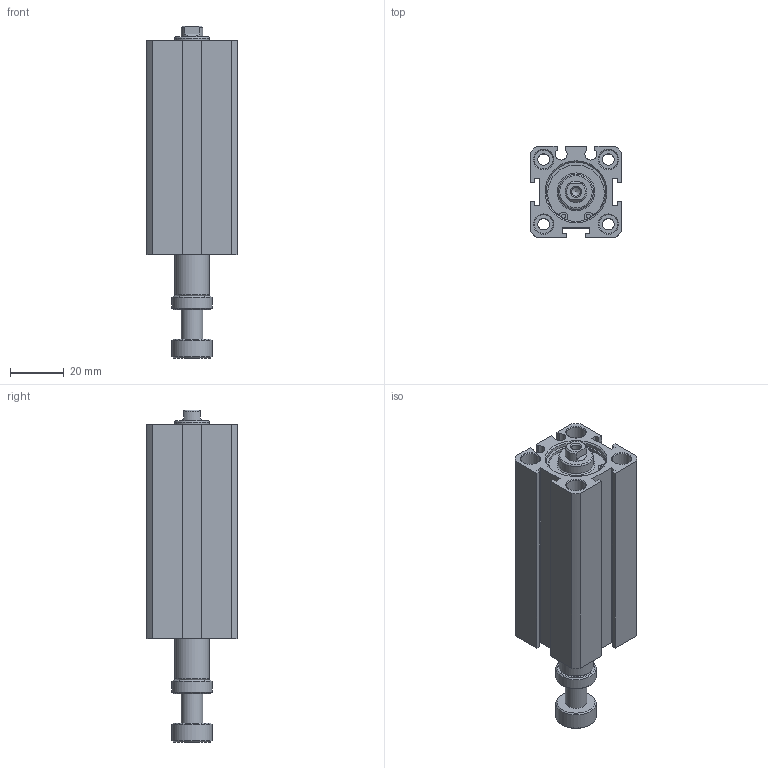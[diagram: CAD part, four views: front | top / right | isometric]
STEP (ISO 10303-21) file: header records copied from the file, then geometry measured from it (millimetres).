
FILE_DESCRIPTION((''),'2;1');
FILE_NAME('I:\3D電子目錄\氣缸\JDAR\JDAR-S\JDAR20-S\JDAR20x50-S.stp','2007-05-05T08:45:02',('662F206'),(''),'Autodesk Inventor 11','Autodesk Inventor 11','');
FILE_SCHEMA(('AUTOMOTIVE_DESIGN { 1 0 10303 214 1 1 1 1 }'));
Length unit declared in the file: millimetre
Products named in the file (3): JDAR20-S; JDAR20; R 形環 23
Assembly tree (3 placements, depth 2):
  JDAR20-S
    JDAR20
    R 形環 23  x2
Bounding box: 34 x 34 x 123.3 mm (x, y, z)
Volume: 78719.1 mm3; surface area: 25435 mm2
Topology: 3 solids, 3 shells, 148 faces, 336 edges, 218 vertices
Faces by surface type: plane 70, cylinder 49, cone 19, bspline 8, torus 2
Full cylindrical faces by diameter (mm): 1.5 x6, 4.3 x4, 7 x8, 8 x1, 13 x2, 15 x2, 22 x4, 23.2 x2
Entity records: 3721 total; most frequent: CARTESIAN_POINT 750, DIRECTION 626, ORIENTED_EDGE 494, AXIS2_PLACEMENT_3D 249, EDGE_CURVE 247, EDGE_LOOP 224, VERTEX_POINT 191, FACE_OUTER_BOUND 136
